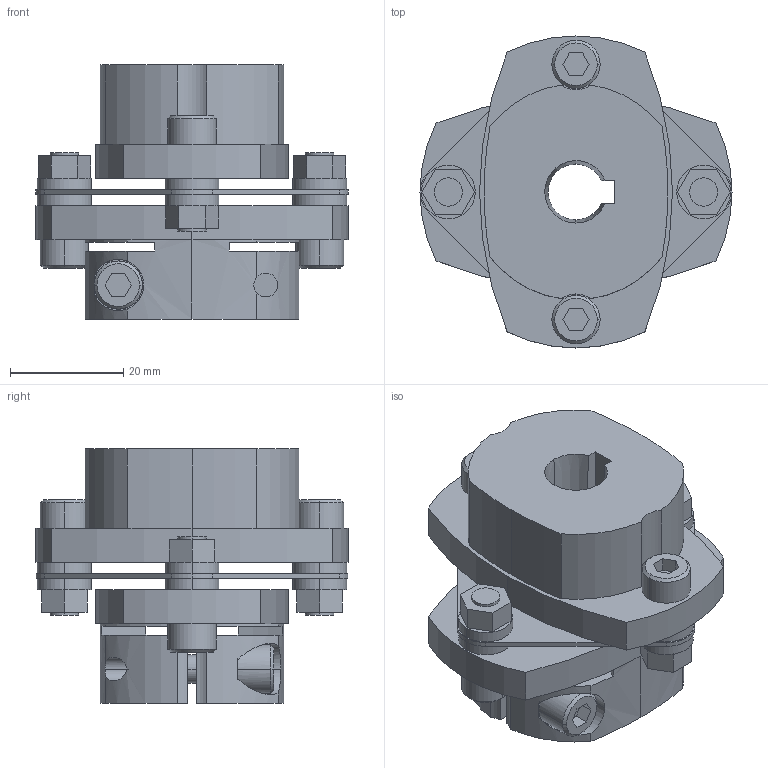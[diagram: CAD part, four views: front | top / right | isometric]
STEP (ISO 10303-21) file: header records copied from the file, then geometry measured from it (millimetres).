
FILE_DESCRIPTION((''),'2;1');
FILE_NAME('LCS-55M-11L亊18B.stp','2011-08-20T15:35:57',(''),(''),'AutoCAD STEP 2000i','AutoCAD 2000i',', , ');
FILE_SCHEMA(('CONFIG_CONTROL_DESIGN'));
Length unit declared in the file: millimetre
Products named in the file (8): LCS-55M-11L×17B; 忣兜1; LC55M-L011; LC55-B017-1; LC55-B017; LC55-B010-1; LC55-B010; LCS55-ITA
Assembly tree (8 placements, depth 2):
  LCS-55M-11L×17B
    忣兜1
    LC55M-L011  x2
    LC55-B017-1
    LC55-B017
    LC55-B010-1
    LC55-B010
    LCS55-ITA
Bounding box: 55 x 55 x 44.8 mm (x, y, z)
Volume: 43625 mm3; surface area: 18857.6 mm2
Topology: 1 solids, 1 shells, 242 faces, 616 edges, 404 vertices
Faces by surface type: plane 117, cylinder 104, cone 21
Entity records: 7827 total; most frequent: CARTESIAN_POINT 1555, DIRECTION 1340, ORIENTED_EDGE 1232, EDGE_CURVE 616, AXIS2_PLACEMENT_3D 495, VERTEX_POINT 404, VECTOR 350, LINE 350
